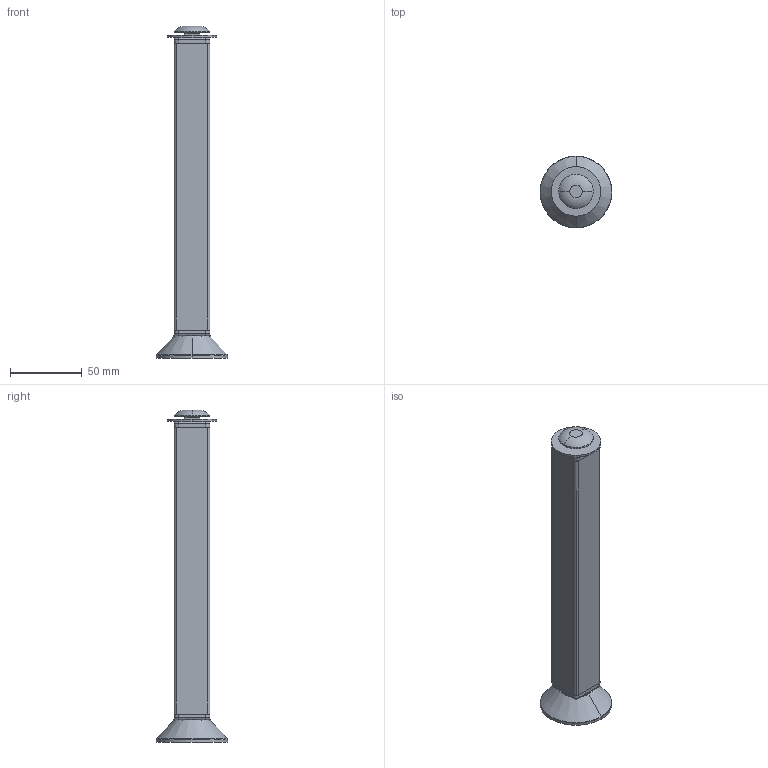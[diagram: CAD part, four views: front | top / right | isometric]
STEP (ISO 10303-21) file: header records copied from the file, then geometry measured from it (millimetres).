
FILE_DESCRIPTION (( 'STEP AP203' ), '1' );
FILE_NAME ('1216204PK_samling200mm.STEP', '2015-01-05T11:35:17', ( '' ), ( '' ), 'SwSTEP 2.0', 'SolidWorks 2011', '' );
FILE_SCHEMA (( 'CONFIG_CONTROL_DESIGN' ));
Length unit declared in the file: millimetre
Products named in the file (6): 1216204PK_spændeskive_Dia34,5; 1216204PK_Fod_M10X50; 1216204PK_Plastikhætte_med_gevind; 1216204PK_Aluprofil200mm; 1216204PK_samling200mm; 1216204PK_M10bolt_rundhoved
Assembly tree (6 placements, depth 2):
  1216204PK_samling200mm
    1216204PK_spændeskive_Dia34,5
    1216204PK_Aluprofil200mm
    1216204PK_Plastikhætte_med_gevind  x2
    1216204PK_Fod_M10X50
    1216204PK_M10bolt_rundhoved
Bounding box: 50 x 50 x 231.5 mm (x, y, z)
Volume: 61128.1 mm3; surface area: 54641.1 mm2
Topology: 6 solids, 6 shells, 142 faces, 318 edges, 188 vertices
Faces by surface type: cylinder 62, plane 48, torus 18, cone 6, bspline 4, sphere 4
Entity records: 3672 total; most frequent: CARTESIAN_POINT 625, DIRECTION 558, ORIENTED_EDGE 460, EDGE_CURVE 230, AXIS2_PLACEMENT_3D 223, VERTEX_POINT 138, EDGE_LOOP 120, VECTOR 112
